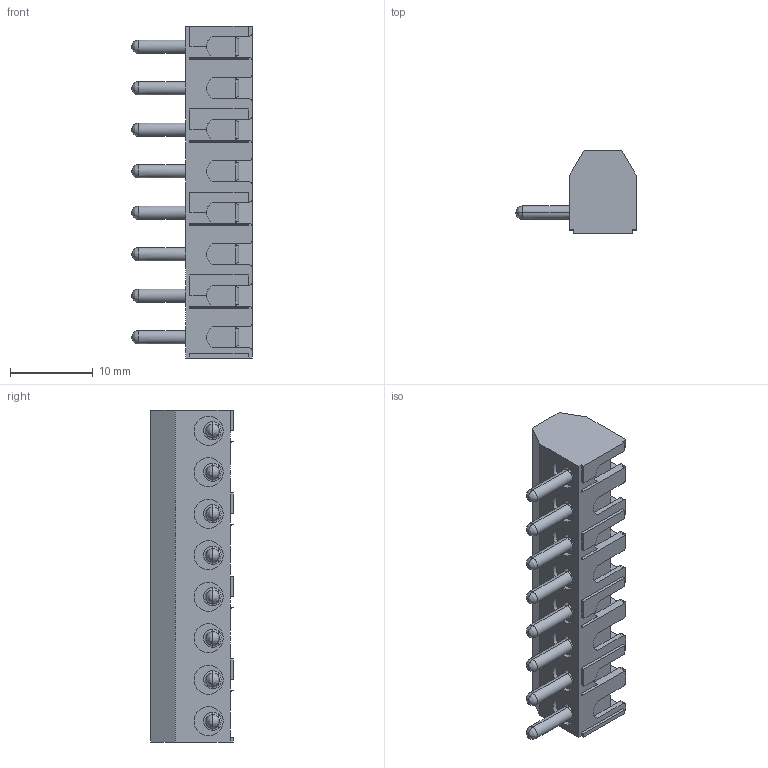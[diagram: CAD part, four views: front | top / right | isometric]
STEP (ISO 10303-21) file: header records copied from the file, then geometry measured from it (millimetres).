
FILE_DESCRIPTION (( 'STEP AP214' ), '1' );
FILE_NAME ('951-SV-DS-08.STEP', '2008-03-17T01:07:37', ( ' ' ), ( '' ), 'SwSTEP 2.0', 'SolidWorks 2007', '' );
FILE_SCHEMA (( 'AUTOMOTIVE_DESIGN' ));
Length unit declared in the file: millimetre
Products named in the file (1): 951-SV-DS-08
Bounding box: 14.5 x 10 x 40 mm (x, y, z)
Volume: 2476.7 mm3; surface area: 2538.7 mm2
Topology: 1 solids, 1 shells, 600 faces, 1886 edges, 1232 vertices
Faces by surface type: plane 380, cylinder 140, bspline 64, cone 16
Entity records: 23489 total; most frequent: CARTESIAN_POINT 7127, ORIENTED_EDGE 3740, DIRECTION 3104, EDGE_CURVE 1870, VERTEX_POINT 1232, LINE 1134, VECTOR 1134, AXIS2_PLACEMENT_3D 985
